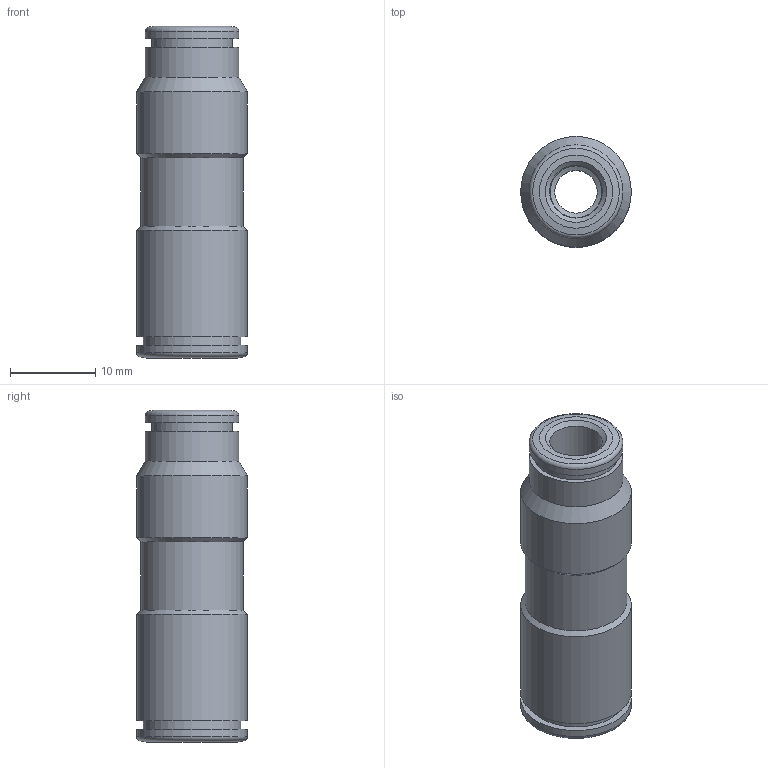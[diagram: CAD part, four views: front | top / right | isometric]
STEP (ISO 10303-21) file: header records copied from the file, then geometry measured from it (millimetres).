
FILE_DESCRIPTION(/* description */ (''),/* implementation_level */ '2;1');
FILE_NAME(/* name */ 'V200309-I1_IPSO03_8_6_11.07.16',/* time_stamp */ '2016-07-11T11:09:36+02:00',/* author */ (''),/* organization */ (''),/* preprocessor_version */ 'ST-DEVELOPER v16.5',/* originating_system */ 'HiCAD 2016 2101.0 Build 254',/* authorisation */ '');
FILE_SCHEMA (('AUTOMOTIVE_DESIGN { 1 0 10303 214 1 1 1 1 }'));
Length unit declared in the file: millimetre
Products named in the file (4): Root; R200309-i1; DR6-1_NEU; DR8-1_NEU
Assembly tree (3 placements, depth 2):
  Root
    R200309-i1
    DR6-1_NEU
    DR8-1_NEU
Bounding box: 13 x 13 x 39 mm (x, y, z)
Volume: 2730.2 mm3; surface area: 3680.4 mm2
Topology: 3 solids, 3 shells, 50 faces, 92 edges, 52 vertices
Faces by surface type: cylinder 19, cone 19, plane 10, torus 2
Full cylindrical faces by diameter (mm): 5 x1, 6.1 x1, 6.2 x1, 8.1 x1, 8.2 x1, 8.3 x1, 9 x1, 9.5 x1, 9.6 x1, 10.1 x1, 11 x3, 11.5 x1, 11.6 x1, 12 x1, 13 x3
Entity records: 1598 total; most frequent: DIRECTION 212, CARTESIAN_POINT 156, AXIS2_PLACEMENT_3D 106, PRESENTATION_STYLE_ASSIGNMENT 103, COLOUR_RGB 101, DRAUGHTING_PRE_DEFINED_CURVE_FONT 100, CURVE_STYLE 100, OVER_RIDING_STYLED_ITEM 100
